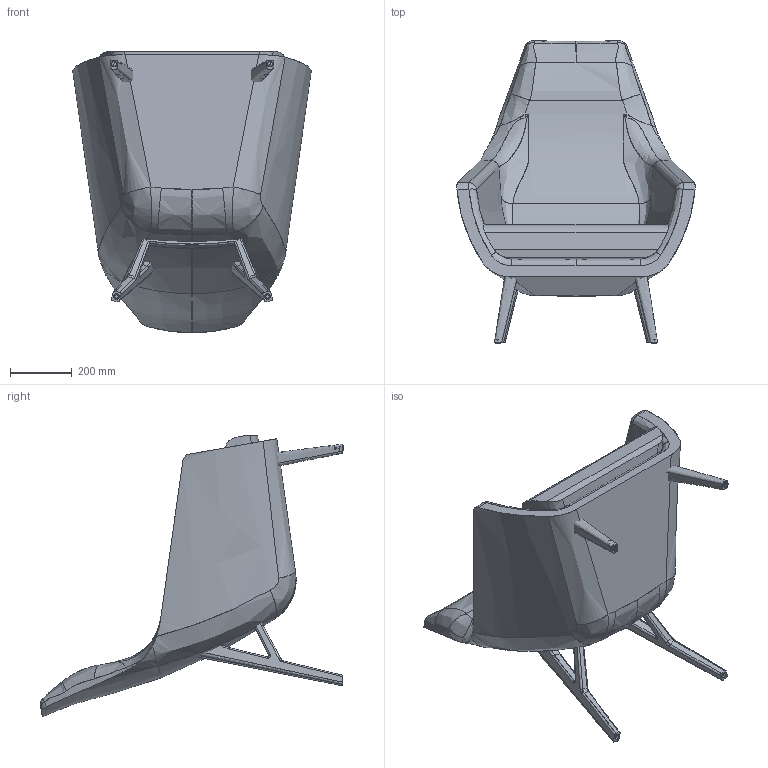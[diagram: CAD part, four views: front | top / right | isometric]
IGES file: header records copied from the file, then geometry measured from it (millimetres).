
Start section: SolidWorks IGES file using analytic representation for surfaces
Global section: file name: G:\Product Info\Enzo\3d\igs\Enzo houten onderstel.IGS; native system: SolidWorks 2015; preprocessor: SolidWorks 2015; author: remko; date: 151223.134358; units: millimetre
Bounding box: 768.56 x 978.84 x 908.33 mm (x, y, z)
Surface area: 3837079.4 mm2 (no closed solid volume)
Topology: 0 solids, 0 shells, 806 faces, 11689 edges, 11673 vertices
Faces by surface type: bspline 488, revolution 318
